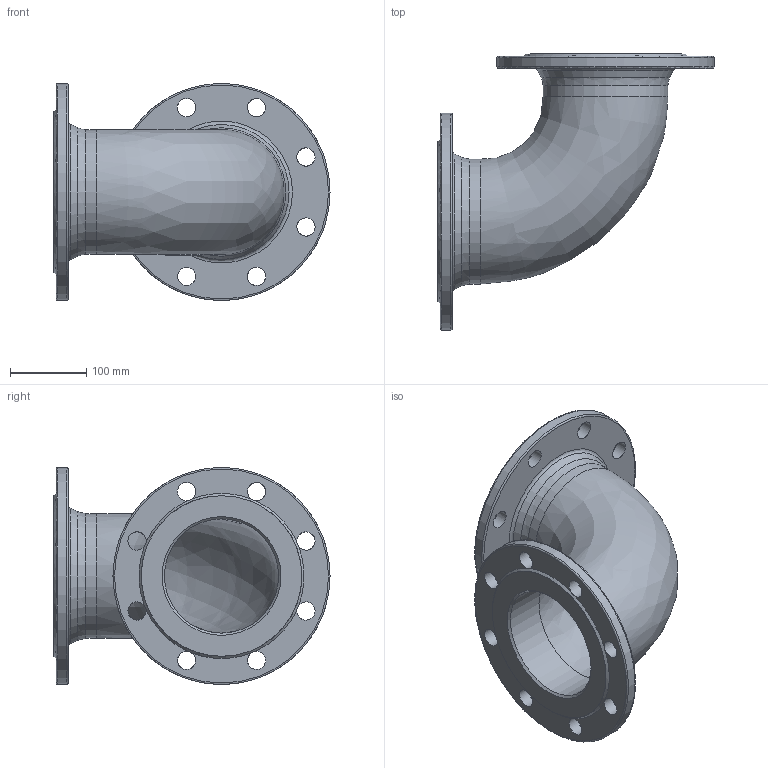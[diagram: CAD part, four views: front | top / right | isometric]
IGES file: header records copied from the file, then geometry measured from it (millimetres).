
Start section: SolidWorks IGES file using analytic representation for surfaces
Global section: file name: \\avksan2\techshare\PBM outline export from Enovia\O_712_0610_DN150_1X_REV01.igs; native system: SolidWorks 2019; preprocessor: SolidWorks 2019; author: pbm; date: 211119.105558; units: millimetre
Bounding box: 362.5 x 362.5 x 285 mm (x, y, z)
Surface area: 546768.7 mm2 (no closed solid volume)
Topology: 0 solids, 0 shells, 85 faces, 474 edges, 433 vertices
Faces by surface type: revolution 44, bspline 41
